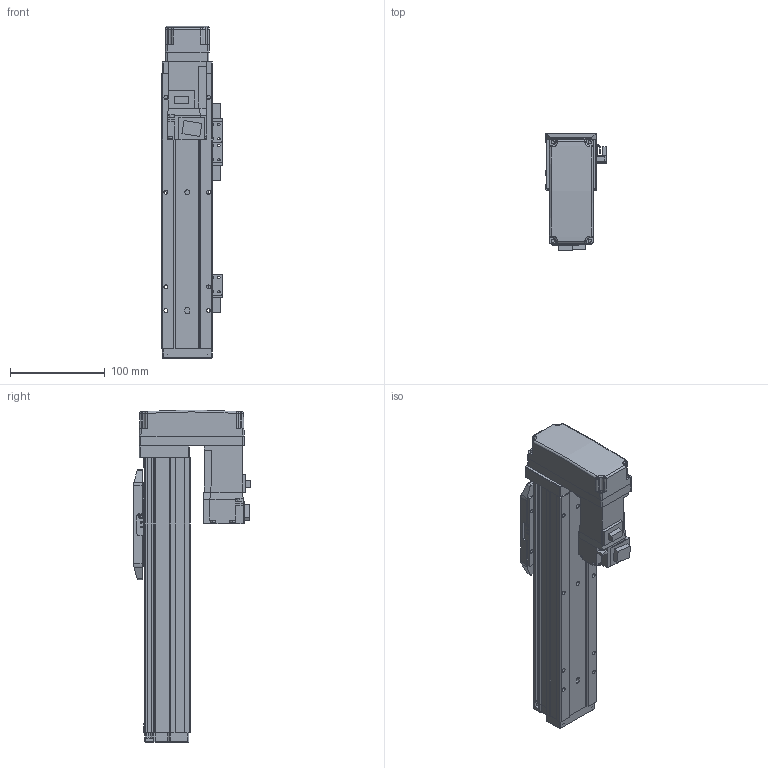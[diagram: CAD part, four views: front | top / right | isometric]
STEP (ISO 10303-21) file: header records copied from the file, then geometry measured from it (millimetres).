
FILE_DESCRIPTION (( 'STEP AP214' ), '1' );
FILE_NAME ('N_GRH5-150-BM-M10.step', '2025-03-14T10:50:35', ( '' ), ( '' ), 'SwSTEP 2.0', 'SolidWorks 2016', '' );
FILE_SCHEMA (( 'AUTOMOTIVE_DESIGN' ));
Length unit declared in the file: millimetre
Products named in the file (5): N_GRH5-GY-011^N_GRH5-150-BM-M10; HF-KP13_100W_Motor^N_GRH5-150-BM-M10; N_GRH5-150-BM-M10; N_GRH5-GY-004^N_GRH5-150-BM-M10; N_GRH5-BL-008^N_GRH5-150-BM-M10
Assembly tree (4 placements, depth 2):
  N_GRH5-150-BM-M10
    N_GRH5-GY-011^N_GRH5-150-BM-M10
    N_GRH5-GY-004^N_GRH5-150-BM-M10
    HF-KP13_100W_Motor^N_GRH5-150-BM-M10
    N_GRH5-BL-008^N_GRH5-150-BM-M10
Bounding box: 64.05 x 123.7 x 350.5 mm (x, y, z)
Volume: 910554.3 mm3; surface area: 211294.9 mm2
Topology: 4 solids, 5 shells, 924 faces, 2360 edges, 1493 vertices
Faces by surface type: plane 545, cylinder 304, cone 50, bspline 15, sphere 10
Entity records: 35235 total; most frequent: CARTESIAN_POINT 5543, DIRECTION 4745, ORIENTED_EDGE 4656, EDGE_CURVE 2328, VECTOR 1627, LINE 1627, AXIS2_PLACEMENT_3D 1559, VERTEX_POINT 1491
